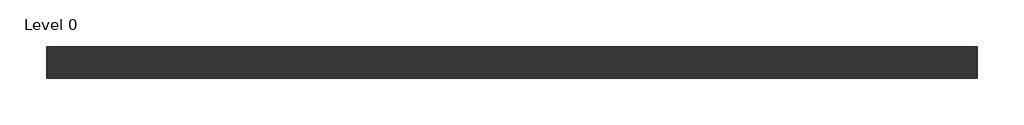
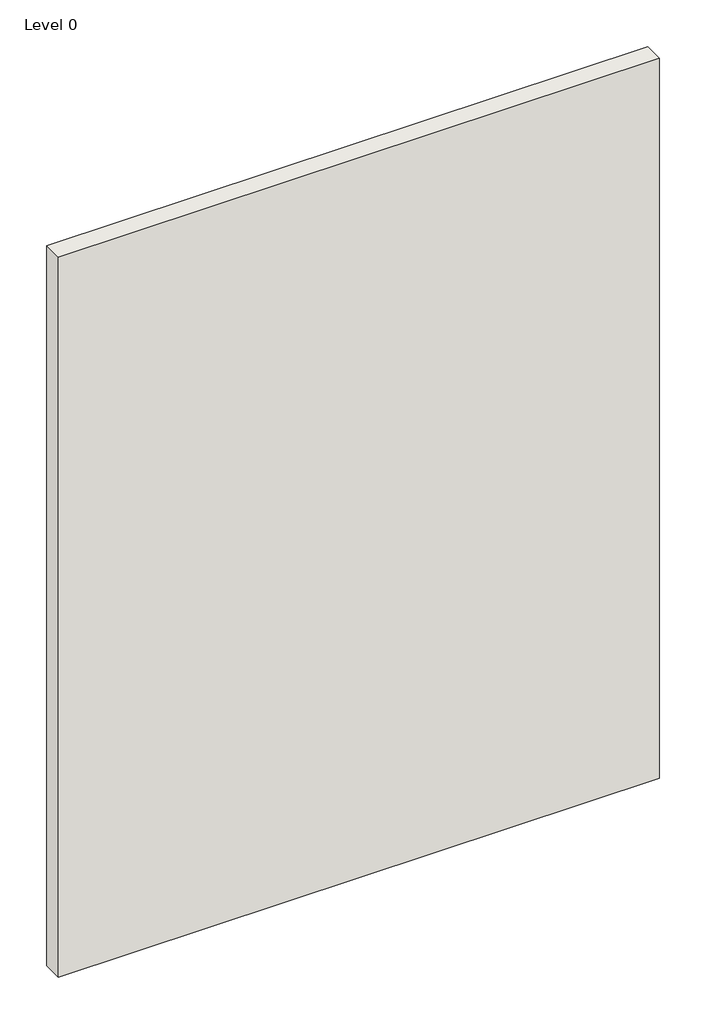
# One storey: 1 wall.
"""IFC4 building model written with IfcOpenShell, lengths in millimetres."""

import ifcopenshell
import ifcopenshell.guid

model = None  # the IFC model being written
_history = None  # IfcOwnerHistory: only IFC2X3 demands one
_inside = {}  # id of a spatial element -> (the spatial element, [elements in it])
_under = {}  # id of a project, library or spatial element -> (it, [spatial elements below it])
_declared = {}  # id of a project -> (the project, [libraries it declares])
_typed = {}  # id of a type object -> (the type object, [elements of that type])
_made_of = {}  # id of a material, layer set ... -> (it, [elements and type objects made of it])


def new_model(schema):
    """Start an empty IFC model of exactly this schema.

    Asked for "IFC4X3", IfcOpenShell would pick the latest addendum, in which some entities
    have other attributes; the version numbers below select the first issue.
    IFC2X3 requires an IfcOwnerHistory on every rooted entity: one is made here for all.
    """
    global model, _history
    if schema == "IFC4X3":
        model = ifcopenshell.file(schema_version=(4, 3, 0, 0))
    else:
        model = ifcopenshell.file(schema=schema)
    _inside.clear()
    _under.clear()
    _declared.clear()
    _typed.clear()
    _made_of.clear()
    _history = None
    if model.schema == "IFC2X3":
        org = make("IfcOrganization", Name="unknown")
        user = make(
            "IfcPersonAndOrganization",
            ThePerson=make("IfcPerson", FamilyName="unknown"),
            TheOrganization=org,
        )
        app = make(
            "IfcApplication",
            ApplicationDeveloper=org,
            Version="unknown",
            ApplicationFullName="unknown",
            ApplicationIdentifier="unknown",
        )
        _history = make(
            "IfcOwnerHistory",
            OwningUser=user,
            OwningApplication=app,
            ChangeAction="ADDED",
            CreationDate=0,
        )
    return model


def make(cls, **values):
    """One entity of the class cls with the attributes given. An attribute that is None is left unset."""
    return model.create_entity(
        cls, **{name: value for name, value in values.items() if value is not None}
    )


def rooted(cls, **values):
    """An entity with a GlobalId (a new one), such as an element, a storey or a relation."""
    return make(cls, GlobalId=ifcopenshell.guid.new(), OwnerHistory=_history, **values)


def si_unit(unit_type, name, prefix=None):
    """IfcSIUnit, for example si_unit("LENGTHUNIT", "METRE", prefix="MILLI")."""
    return make("IfcSIUnit", UnitType=unit_type, Prefix=prefix, Name=name)


def assignment(units):
    """IfcUnitAssignment: the units of a project."""
    return None if units is None else make("IfcUnitAssignment", Units=units)


def point(xyz):
    """IfcCartesianPoint."""
    return None if xyz is None else make("IfcCartesianPoint", Coordinates=xyz)


def direction(xyz):
    """IfcDirection."""
    return None if xyz is None else make("IfcDirection", DirectionRatios=xyz)


def frame(location, z_axis=None, x_axis=None):
    """IfcAxis2Placement3D, a coordinate frame: its origin and axes. An axis left out is left unset."""
    return make(
        "IfcAxis2Placement3D",
        Location=point(location),
        Axis=direction(z_axis),
        RefDirection=direction(x_axis),
    )


def origin():
    """The frame at (0, 0, 0) with its axes left unset."""
    return frame((0.0, 0.0, 0.0))


def origin_with_axes():
    """The frame at (0, 0, 0) with the z axis (0, 0, 1) and the x axis (1, 0, 0) written out."""
    return frame((0.0, 0.0, 0.0), z_axis=(0.0, 0.0, 1.0), x_axis=(1.0, 0.0, 0.0))


def place(relative_to, where):
    """IfcLocalPlacement: puts the frame where relative to a parent placement (None: the world)."""
    return make(
        "IfcLocalPlacement", PlacementRelTo=relative_to, RelativePlacement=where
    )


def context(
    kind, dimensions, precision=None, world=None, true_north=None, identifier=None
):
    """IfcGeometricRepresentationContext, for example the 3D "Model" context."""
    return make(
        "IfcGeometricRepresentationContext",
        ContextIdentifier=identifier,
        ContextType=kind,
        CoordinateSpaceDimension=dimensions,
        Precision=precision,
        WorldCoordinateSystem=world,
        TrueNorth=true_north,
    )


def project(units=None, contexts=None):
    """IfcProject with its units and contexts."""
    return rooted(
        "IfcProject",
        Name="project",
        RepresentationContexts=contexts,
        UnitsInContext=assignment(units),
    )


def spatial(cls, under=None, at=None, **own):
    """A site, building, storey or space (cls), placed at a placement, below another one or the project."""
    s = rooted(cls, ObjectPlacement=at, **own)
    if under is not None:
        _under.setdefault(under.id(), (under, []))[1].append(s)
    return s


def polyline(points):
    """IfcPolyline through the points."""
    return make("IfcPolyline", Points=[point(p) for p in points])


def outline(outer, holes=None, kind="AREA"):
    """IfcArbitraryClosedProfileDef: a profile drawn as a closed curve; with holes, ...WithVoids."""
    if holes is None:
        return make("IfcArbitraryClosedProfileDef", ProfileType=kind, OuterCurve=outer)
    return make(
        "IfcArbitraryProfileDefWithVoids",
        ProfileType=kind,
        OuterCurve=outer,
        InnerCurves=holes,
    )


def extrude(swept, where, along, depth):
    """IfcExtrudedAreaSolid: the profile swept, set in the frame where, extruded along a direction by depth."""
    return make(
        "IfcExtrudedAreaSolid",
        SweptArea=swept,
        Position=where,
        ExtrudedDirection=direction(along),
        Depth=depth,
    )


def shape(context_of_items, identifier, shape_type, items):
    """IfcShapeRepresentation: the items that make up one representation, for example the "Body"."""
    return make(
        "IfcShapeRepresentation",
        ContextOfItems=context_of_items,
        RepresentationIdentifier=identifier,
        RepresentationType=shape_type,
        Items=items,
    )


def made_of(thing, what):
    """Note that an element or type object is made of a material, layer set ...; save() writes the relation."""
    if what is not None:
        _made_of.setdefault(what.id(), (what, []))[1].append(thing)
    return thing


def element(
    cls,
    number,
    at=None,
    inside=None,
    cuts=None,
    type_object=None,
    material=None,
    context=None,
    identifier="Body",
    shape_type=None,
    held_by="IfcProductDefinitionShape",
    body=None,
    shapes=None,
    **own,
):
    """One element of the class cls, such as IfcWall. Its Tag is "e" and its number.

    at: its placement. inside: the storey or other place that contains it. cuts: it is an
    opening in that element (IfcRelVoidsElement). A single representation is given by context,
    identifier, shape_type and body (its items); several are given by shapes. held_by: the class
    of the entity that holds the representations. save() writes the other relations.
    """
    e = rooted(cls, Tag="e%d" % number, ObjectPlacement=at, **own)
    if body is not None:
        shapes = [shape(context, identifier, shape_type, body)]
    if shapes is not None:
        e.Representation = make(held_by, Representations=shapes)
    if inside is not None:
        _inside.setdefault(inside.id(), (inside, []))[1].append(e)
    if cuts is not None:
        rooted(
            "IfcRelVoidsElement", RelatingBuildingElement=cuts, RelatedOpeningElement=e
        )
    if type_object is not None:
        _typed.setdefault(type_object.id(), (type_object, []))[1].append(e)
    return made_of(e, material)


def aggregate(whole, parts):
    """IfcRelAggregates: a whole, such as a stair, and the parts it consists of."""
    return rooted("IfcRelAggregates", RelatingObject=whole, RelatedObjects=parts)


def save(model, path):
    """Write the relations noted so far, then the file.

    IfcRelAggregates (storeys below a building ...), IfcRelContainedInSpatialStructure (elements
    in a storey), IfcRelDefinesByType, IfcRelAssociatesMaterial and IfcRelDeclares: one each for
    every whole, place, type object, material and project.
    """
    for whole, parts in _under.values():
        aggregate(whole, parts)
    for where, things in _inside.values():
        rooted(
            "IfcRelContainedInSpatialStructure",
            RelatedElements=things,
            RelatingStructure=where,
        )
    for kind, things in _typed.values():
        rooted("IfcRelDefinesByType", RelatedObjects=things, RelatingType=kind)
    for what, things in _made_of.values():
        rooted("IfcRelAssociatesMaterial", RelatedObjects=things, RelatingMaterial=what)
    for by, libraries in _declared.values():
        rooted("IfcRelDeclares", RelatingContext=by, RelatedDefinitions=libraries)
    model.write(path)


model = new_model("IFC4")

# Units and contexts
model_context = context("Model", 3, world=origin())
ifc_project = project(units=[si_unit("LENGTHUNIT", "METRE", prefix="MILLI")], contexts=[model_context])

# Site, building, storey
site = spatial("IfcSite", under=ifc_project)
building = spatial("IfcBuilding", under=site)
storey = spatial("IfcBuildingStorey", under=building, Name="Level 0", Elevation=0.0)

# Wall
placement = place(None, origin())
element("IfcWall", 1, ObjectType="A206078 - GypWall CLASSIC", at=placement, inside=storey, context=model_context, shape_type="SweptSolid", body=[
    extrude(outline(polyline([(2116.0807354, 542.7205641), (-883.9192646, 542.7205641), (-883.9192646, 644.7205641), (2116.0807354, 644.7205641), (2116.0807354, 542.7205641)])), origin_with_axes(), (0.0, 0.0, 1.0), 3800.0),
])

save(model, "model.ifc")
